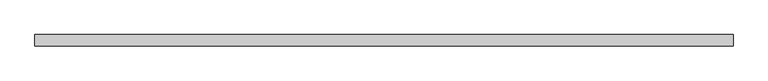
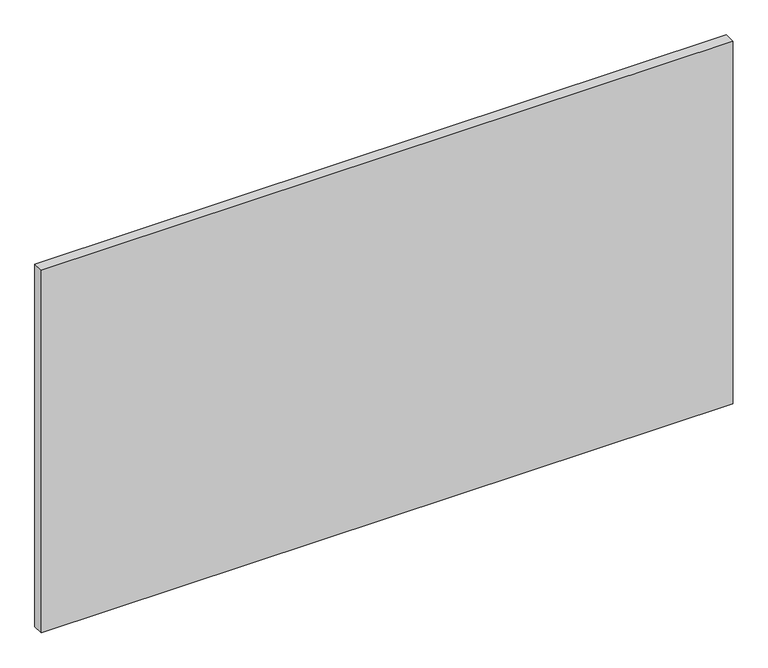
"""IFC4 building model written with IfcOpenShell, lengths in millimetres: plate geometry, 系统嵌板 : 玻璃."""

from ifc_helpers import new_model, si_unit, origin, origin_with_axes, place, context, project, spatial, polyline, outline, extrude, source, transform, mapped, element, save


def plate_528bf638(model_context):
    return source(origin(), model_context, "Body", "SweptSolid", [
        extrude(outline(polyline([(785.0, -12.5), (-785.0, -12.5), (-785.0, 12.5), (785.0, 12.5), (785.0, -12.5)])), origin_with_axes(), (0.0, 0.0, 1.0), 870.0),
    ])


if __name__ == "__main__":
    model = new_model("IFC4")
    model_context = context("Model", 3, world=origin())
    ifc_project = project(units=[si_unit("LENGTHUNIT", "METRE", prefix="MILLI")], contexts=[model_context])
    site = spatial("IfcSite", under=ifc_project)
    building = spatial("IfcBuilding", under=site)
    placement = place(None, origin())
    plate_shape = plate_528bf638(model_context)
    element("IfcPlate", 1, ObjectType="系统嵌板 : 玻璃", at=placement, inside=building, context=model_context, shape_type="MappedRepresentation", body=[
        mapped(plate_shape, transform((0.0, 0.0, 0.0), x_axis=(1.0, 0.0, 0.0), y_axis=(0.0, 1.0, 0.0), z_axis=(0.0, 0.0, 1.0))),
    ])
    save(model, "model.ifc")
